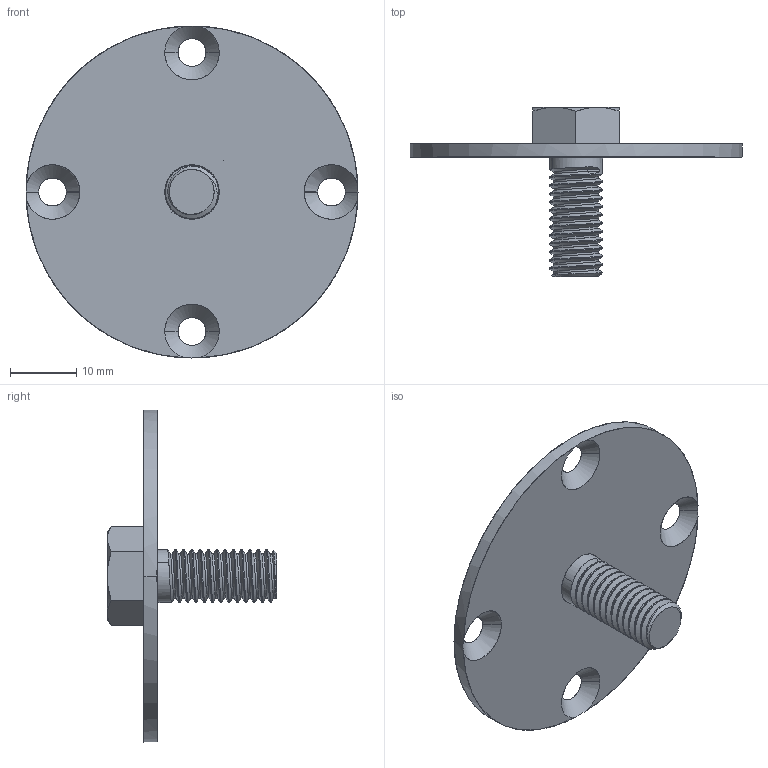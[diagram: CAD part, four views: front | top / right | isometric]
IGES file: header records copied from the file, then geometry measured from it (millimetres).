
Start section: SolidWorks IGES file using analytic representation for surfaces
Bounding box: 50 x 25.5 x 50 mm (x, y, z)
Surface area: 5349 mm2 (no closed solid volume)
Topology: 0 solids, 0 shells, 66 faces, 1365 edges, 1365 vertices
Faces by surface type: revolution 47, bspline 19
